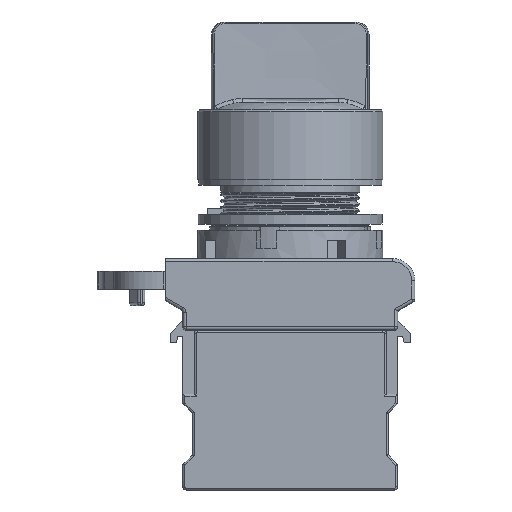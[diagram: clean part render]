
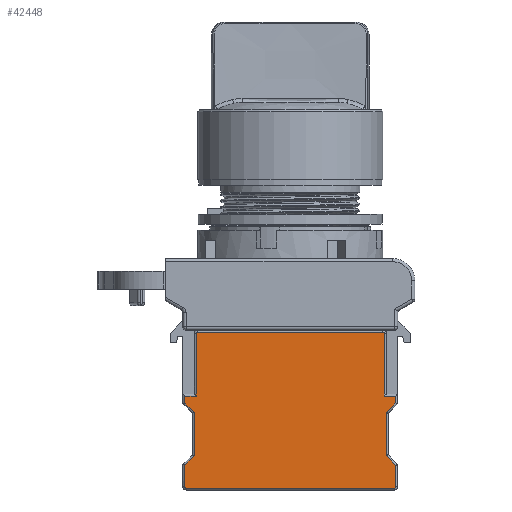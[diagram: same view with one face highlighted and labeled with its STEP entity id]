
A CAD part, front view. The second image highlights one B-rep face of the part: STEP entity #42448.
In plain terms, the highlighted planar face has unit normal (0, -1, 0).
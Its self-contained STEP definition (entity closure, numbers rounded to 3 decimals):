
#1778=PLANE('',#47565);
#3197=CIRCLE('',#47277,0.2);
#3201=CIRCLE('',#47287,0.2);
#3206=CIRCLE('',#47300,0.2);
#3210=CIRCLE('',#47310,0.2);
#5247=LINE('',#83266,#9745);
#5248=LINE('',#83271,#9746);
#5251=LINE('',#83278,#9749);
#5253=LINE('',#83290,#9751);
#5254=LINE('',#83295,#9752);
#5257=LINE('',#83302,#9755);
#5259=LINE('',#83314,#9757);
#5260=LINE('',#83319,#9758);
#5263=LINE('',#83326,#9761);
#5264=LINE('',#83331,#9762);
#5266=LINE('',#83343,#9764);
#5269=LINE('',#83350,#9767);
#5270=LINE('',#83355,#9768);
#5272=LINE('',#83367,#9770);
#5275=LINE('',#83374,#9773);
#5277=LINE('',#83377,#9775);
#9745=VECTOR('',#54068,1000.);
#9746=VECTOR('',#54073,1000.);
#9749=VECTOR('',#54080,1000.);
#9751=VECTOR('',#54094,1000.);
#9752=VECTOR('',#54099,1000.);
#9755=VECTOR('',#54106,1000.);
#9757=VECTOR('',#54120,1000.);
#9758=VECTOR('',#54125,1000.);
#9761=VECTOR('',#54132,1000.);
#9762=VECTOR('',#54137,1000.);
#9764=VECTOR('',#54151,1000.);
#9767=VECTOR('',#54158,1000.);
#9768=VECTOR('',#54163,1000.);
#9770=VECTOR('',#54177,1000.);
#9773=VECTOR('',#54184,1000.);
#9775=VECTOR('',#54188,1000.);
#18961=ORIENTED_EDGE('',*,*,#27431,.T.);
#18962=ORIENTED_EDGE('',*,*,#27425,.T.);
#18963=ORIENTED_EDGE('',*,*,#27427,.T.);
#18964=ORIENTED_EDGE('',*,*,#27433,.T.);
#18965=ORIENTED_EDGE('',*,*,#27439,.T.);
#18966=ORIENTED_EDGE('',*,*,#27445,.T.);
#18967=ORIENTED_EDGE('',*,*,#27451,.T.);
#18968=ORIENTED_EDGE('',*,*,#27457,.T.);
#18969=ORIENTED_EDGE('',*,*,#27463,.T.);
#18970=ORIENTED_EDGE('',*,*,#27469,.T.);
#18971=ORIENTED_EDGE('',*,*,#27475,.T.);
#18972=ORIENTED_EDGE('',*,*,#27481,.T.);
#18973=ORIENTED_EDGE('',*,*,#27479,.T.);
#18974=ORIENTED_EDGE('',*,*,#27473,.T.);
#18975=ORIENTED_EDGE('',*,*,#27467,.T.);
#18976=ORIENTED_EDGE('',*,*,#27461,.T.);
#18977=ORIENTED_EDGE('',*,*,#27455,.T.);
#18978=ORIENTED_EDGE('',*,*,#27449,.T.);
#18979=ORIENTED_EDGE('',*,*,#27443,.T.);
#18980=ORIENTED_EDGE('',*,*,#27437,.T.);
#27425=EDGE_CURVE('',#32582,#32585,#5247,.T.);
#27427=EDGE_CURVE('',#32585,#32587,#5248,.T.);
#27431=EDGE_CURVE('',#32588,#32582,#5251,.T.);
#27433=EDGE_CURVE('',#32587,#32591,#3197,.T.);
#27437=EDGE_CURVE('',#32592,#32588,#5253,.T.);
#27439=EDGE_CURVE('',#32591,#32595,#5254,.T.);
#27443=EDGE_CURVE('',#32596,#32592,#5257,.T.);
#27445=EDGE_CURVE('',#32595,#32599,#3201,.T.);
#27449=EDGE_CURVE('',#32600,#32596,#5259,.T.);
#27451=EDGE_CURVE('',#32599,#32603,#5260,.T.);
#27455=EDGE_CURVE('',#32604,#32600,#5263,.T.);
#27457=EDGE_CURVE('',#32603,#32607,#5264,.T.);
#27461=EDGE_CURVE('',#32608,#32604,#3206,.T.);
#27463=EDGE_CURVE('',#32607,#32611,#5266,.T.);
#27467=EDGE_CURVE('',#32612,#32608,#5269,.T.);
#27469=EDGE_CURVE('',#32611,#32615,#5270,.T.);
#27473=EDGE_CURVE('',#32616,#32612,#3210,.T.);
#27475=EDGE_CURVE('',#32615,#32619,#5272,.T.);
#27479=EDGE_CURVE('',#32620,#32616,#5275,.T.);
#27481=EDGE_CURVE('',#32619,#32620,#5277,.T.);
#32582=VERTEX_POINT('',#83260);
#32585=VERTEX_POINT('',#83265);
#32587=VERTEX_POINT('',#83270);
#32588=VERTEX_POINT('',#83275);
#32591=VERTEX_POINT('',#83282);
#32592=VERTEX_POINT('',#83287);
#32595=VERTEX_POINT('',#83294);
#32596=VERTEX_POINT('',#83299);
#32599=VERTEX_POINT('',#83306);
#32600=VERTEX_POINT('',#83311);
#32603=VERTEX_POINT('',#83318);
#32604=VERTEX_POINT('',#83323);
#32607=VERTEX_POINT('',#83330);
#32608=VERTEX_POINT('',#83335);
#32611=VERTEX_POINT('',#83342);
#32612=VERTEX_POINT('',#83347);
#32615=VERTEX_POINT('',#83354);
#32616=VERTEX_POINT('',#83359);
#32619=VERTEX_POINT('',#83366);
#32620=VERTEX_POINT('',#83371);
#36528=EDGE_LOOP('',(#18961,#18962,#18963,#18964,#18965,#18966,#18967,#18968,
#18969,#18970,#18971,#18972,#18973,#18974,#18975,#18976,#18977,#18978,#18979,
#18980));
#39398=FACE_BOUND('',#36528,.T.);
#42448=ADVANCED_FACE('',(#39398),#1778,.T.);
#47277=AXIS2_PLACEMENT_3D('',#83283,#54085,#54086);
#47287=AXIS2_PLACEMENT_3D('',#83307,#54111,#54112);
#47300=AXIS2_PLACEMENT_3D('',#83338,#54145,#54146);
#47310=AXIS2_PLACEMENT_3D('',#83362,#54171,#54172);
#47565=AXIS2_PLACEMENT_3D('',#84542,#55225,#55226);
#54068=DIRECTION('',(-1.,0.,0.));
#54073=DIRECTION('',(0.,0.,1.));
#54080=DIRECTION('',(0.,0.,1.));
#54085=DIRECTION('',(0.,-1.,0.));
#54086=DIRECTION('',(0.,0.,1.));
#54094=DIRECTION('',(0.707,0.,0.707));
#54099=DIRECTION('',(-1.,0.,0.));
#54106=DIRECTION('',(0.,0.,1.));
#54111=DIRECTION('',(0.,-1.,0.));
#54112=DIRECTION('',(0.,0.,1.));
#54120=DIRECTION('',(-0.707,0.,0.707));
#54125=DIRECTION('',(0.,0.,-1.));
#54132=DIRECTION('',(0.,0.,1.));
#54137=DIRECTION('',(-1.,0.,0.));
#54145=DIRECTION('',(0.,-1.,0.));
#54146=DIRECTION('',(0.,0.,1.));
#54151=DIRECTION('',(0.,0.,-1.));
#54158=DIRECTION('',(1.,0.,0.));
#54163=DIRECTION('',(0.707,0.,-0.707));
#54171=DIRECTION('',(0.,-1.,0.));
#54172=DIRECTION('',(0.,0.,1.));
#54177=DIRECTION('',(0.,0.,-1.));
#54184=DIRECTION('',(0.,0.,-1.));
#54188=DIRECTION('',(-0.707,0.,-0.707));
#55225=DIRECTION('',(0.,-1.,0.));
#55226=DIRECTION('',(0.,0.,-1.));
#83260=CARTESIAN_POINT('',(16.5,-15.,-33.8));
#83265=CARTESIAN_POINT('',(14.7,-15.,-33.8));
#83266=CARTESIAN_POINT('',(15.,-15.,-33.8));
#83270=CARTESIAN_POINT('',(14.7,-15.,-24.));
#83271=CARTESIAN_POINT('',(14.7,-15.,-36.));
#83275=CARTESIAN_POINT('',(16.5,-15.,-34.876));
#83278=CARTESIAN_POINT('',(16.5,-15.,-33.5));
#83282=CARTESIAN_POINT('',(14.5,-15.,-23.8));
#83283=CARTESIAN_POINT('',(14.5,-15.,-24.));
#83287=CARTESIAN_POINT('',(15.,-15.,-36.376));
#83290=CARTESIAN_POINT('',(3.863,-15.,-47.513));
#83294=CARTESIAN_POINT('',(-14.5,-15.,-23.8));
#83295=CARTESIAN_POINT('',(-7.65,-15.,-23.8));
#83299=CARTESIAN_POINT('',(15.,-15.,-43.124));
#83302=CARTESIAN_POINT('',(15.,-15.,-36.));
#83306=CARTESIAN_POINT('',(-14.7,-15.,-24.));
#83307=CARTESIAN_POINT('',(-14.5,-15.,-24.));
#83311=CARTESIAN_POINT('',(16.5,-15.,-44.624));
#83314=CARTESIAN_POINT('',(0.113,-15.,-28.237));
#83318=CARTESIAN_POINT('',(-14.7,-15.,-33.8));
#83319=CARTESIAN_POINT('',(-14.7,-15.,-36.));
#83323=CARTESIAN_POINT('',(16.5,-15.,-48.));
#83326=CARTESIAN_POINT('',(16.5,-15.,-36.));
#83330=CARTESIAN_POINT('',(-16.5,-15.,-33.8));
#83331=CARTESIAN_POINT('',(-16.8,-15.,-33.8));
#83335=CARTESIAN_POINT('',(16.3,-15.,-48.2));
#83338=CARTESIAN_POINT('',(16.3,-15.,-48.));
#83342=CARTESIAN_POINT('',(-16.5,-15.,-34.876));
#83343=CARTESIAN_POINT('',(-16.5,-15.,-35.));
#83347=CARTESIAN_POINT('',(-16.3,-15.,-48.2));
#83350=CARTESIAN_POINT('',(-7.65,-15.,-48.2));
#83354=CARTESIAN_POINT('',(-15.,-15.,-36.376));
#83355=CARTESIAN_POINT('',(-11.513,-15.,-39.863));
#83359=CARTESIAN_POINT('',(-16.5,-15.,-48.));
#83362=CARTESIAN_POINT('',(-16.3,-15.,-48.));
#83366=CARTESIAN_POINT('',(-15.,-15.,-43.124));
#83367=CARTESIAN_POINT('',(-15.,-15.,-36.));
#83371=CARTESIAN_POINT('',(-16.5,-15.,-44.624));
#83374=CARTESIAN_POINT('',(-16.5,-15.,-36.));
#83377=CARTESIAN_POINT('',(-7.763,-15.,-35.887));
#84542=CARTESIAN_POINT('',(-7.65,-15.,-36.));
